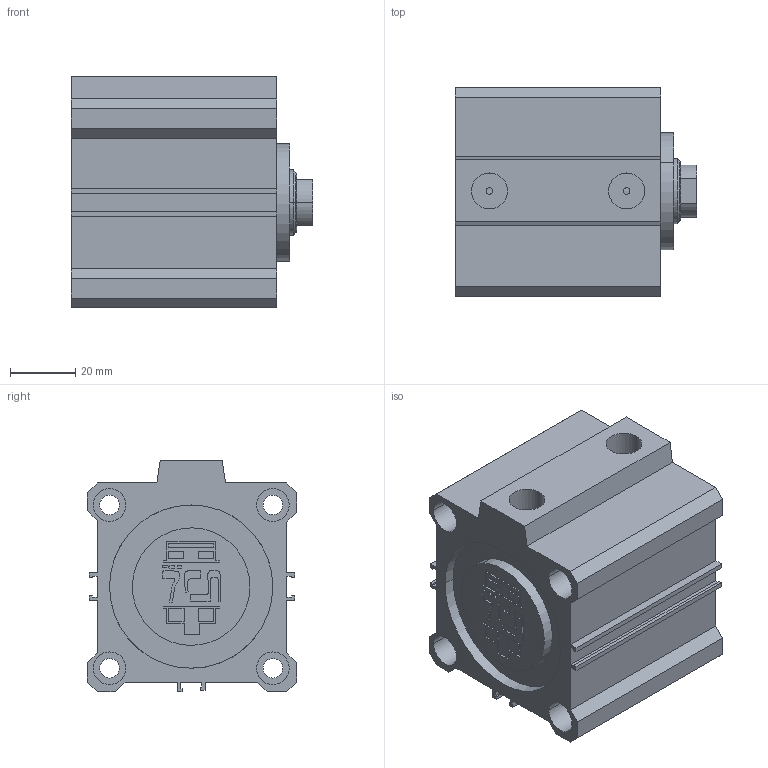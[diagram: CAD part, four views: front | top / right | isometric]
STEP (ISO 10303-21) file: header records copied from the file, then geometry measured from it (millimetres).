
FILE_DESCRIPTION(('CATIA V5 STEP Exchange'),'2;1');
FILE_NAME('D:\PDA\PDA-STP\PDA 50-20\PDA 50-20-25.stp','2016-02-02T10:48:40+00:00',('none'),('none'),'Version 5-6 Release 2012','CATIA V5 STEP AP203','none');
FILE_SCHEMA(('CONFIG_CONTROL_DESIGN'));
Length unit declared in the file: millimetre
Products named in the file (1): PDA 50-20-25-00
Assembly tree (2 placements, depth 2):
  PDA 50-20-25-00
    #58
    #6574
Bounding box: 74 x 64 x 71 mm (x, y, z)
Volume: 183788.1 mm3; surface area: 56546.2 mm2
Topology: 2 solids, 2 shells, 248 faces, 640 edges, 428 vertices
Faces by surface type: plane 172, cylinder 72, cone 2, torus 2
Entity records: 7094 total; most frequent: ORIENTED_EDGE 1280, CARTESIAN_POINT 1265, DIRECTION 966, EDGE_CURVE 640, VECTOR 482, LINE 482, VERTEX_POINT 428, AXIS2_PLACEMENT_3D 319
